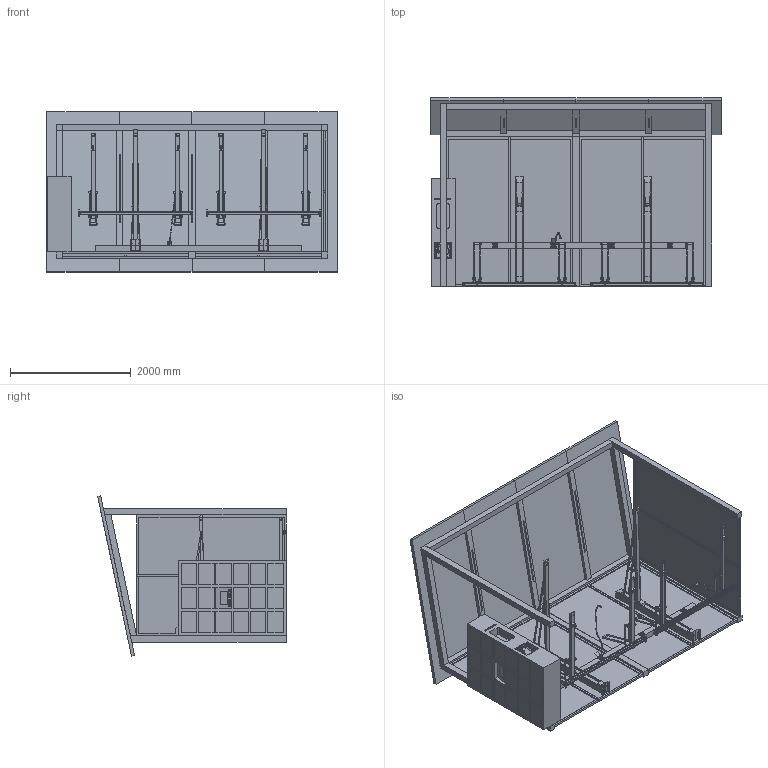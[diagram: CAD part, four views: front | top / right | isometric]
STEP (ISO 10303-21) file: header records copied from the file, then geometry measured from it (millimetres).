
FILE_DESCRIPTION (( 'STEP AP203' ), '1' );
FILE_NAME ('WYE1810B.STEP', '2025-10-06T08:02:31', ( '' ), ( '' ), 'SwSTEP 2.0', 'SolidWorks 2025', '' );
FILE_SCHEMA (( 'CONFIG_CONTROL_DESIGN' ));
Products named in the file (9): WYE1810B-4; WYE1810B-6; WYE1810B-2; WYE1810B-3; WYE1810B-5; WYE1810B; WYE1810B-LIGHT; WYE1810B-7; WYE1810B-1
Assembly tree (8 placements, depth 2):
  WYE1810B
    WYE1810B-1
    WYE1810B-2
    WYE1810B-3
    WYE1810B-4
    WYE1810B-5
    WYE1810B-6
    WYE1810B-7
    WYE1810B-LIGHT
Bounding box: 4800 x 3118.7 x 2651.45 mm (x, y, z)
Volume: 2207133906.4 mm3; surface area: 118468517.4 mm2
Topology: 256 solids, 264 shells, 6371 faces, 14934 edges, 9088 vertices
Faces by surface type: plane 2676, bspline 2168, cylinder 1527
Entity records: 410164 total; most frequent: CARTESIAN_POINT 303744, ORIENTED_EDGE 29594, EDGE_CURVE 14797, B_SPLINE_CURVE_WITH_KNOTS 12963, VERTEX_POINT 9088, DIRECTION 8532, EDGE_LOOP 6625, ADVANCED_FACE 6371
